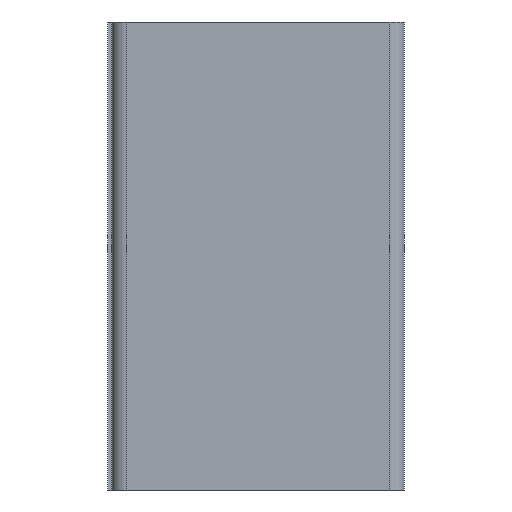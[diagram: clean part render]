
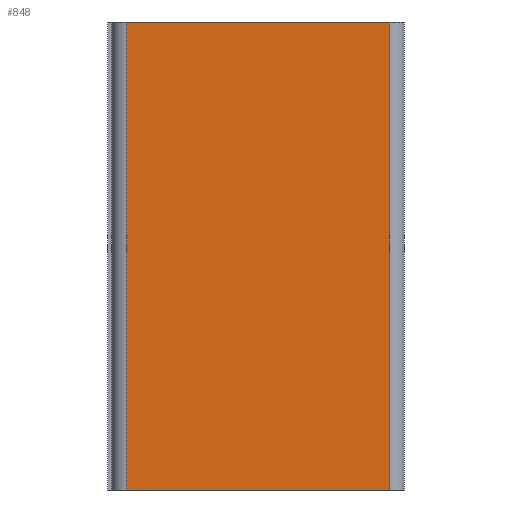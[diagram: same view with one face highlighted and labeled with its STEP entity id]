
A CAD part, left-side view. The second image highlights one B-rep face of the part: STEP entity #848.
In plain terms, the highlighted planar face has unit normal (-1, 0, 0).
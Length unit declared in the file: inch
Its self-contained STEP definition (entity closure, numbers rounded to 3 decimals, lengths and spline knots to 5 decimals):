
#38=FACE_OUTER_BOUND('',#88,.T.);
#88=EDGE_LOOP('',(#592,#593,#594,#595));
#142=LINE('',#1221,#254);
#144=LINE('',#1227,#256);
#152=LINE('',#1245,#264);
#153=LINE('',#1246,#265);
#254=VECTOR('',#989,0.032);
#256=VECTOR('',#995,0.018);
#264=VECTOR('',#1007,0.018);
#265=VECTOR('',#1008,0.032);
#363=VERTEX_POINT('',#1218);
#364=VERTEX_POINT('',#1220);
#366=VERTEX_POINT('',#1226);
#374=VERTEX_POINT('',#1244);
#447=EDGE_CURVE('',#363,#364,#142,.T.);
#450=EDGE_CURVE('',#364,#366,#144,.T.);
#459=EDGE_CURVE('',#374,#363,#152,.T.);
#460=EDGE_CURVE('',#366,#374,#153,.T.);
#592=ORIENTED_EDGE('',*,*,#447,.F.);
#593=ORIENTED_EDGE('',*,*,#459,.F.);
#594=ORIENTED_EDGE('',*,*,#460,.F.);
#595=ORIENTED_EDGE('',*,*,#450,.F.);
#801=PLANE('',#912);
#848=ADVANCED_FACE('',(#38),#801,.T.);
#912=AXIS2_PLACEMENT_3D('',#1243,#1005,#1006);
#989=DIRECTION('',(0.,0.,-1.));
#995=DIRECTION('',(0.,1.,0.));
#1005=DIRECTION('center_axis',(-1.,0.,0.));
#1006=DIRECTION('ref_axis',(0.,-1.,0.));
#1007=DIRECTION('',(0.,-1.,0.));
#1008=DIRECTION('',(0.,0.,1.));
#1218=CARTESIAN_POINT('',(-0.032,0.001,0.016));
#1220=CARTESIAN_POINT('',(-0.032,0.001,-0.016));
#1221=CARTESIAN_POINT('',(-0.032,0.001,0.));
#1226=CARTESIAN_POINT('',(-0.032,0.019,-0.016));
#1227=CARTESIAN_POINT('',(-0.032,0.02,-0.016));
#1243=CARTESIAN_POINT('Origin',(-0.032,0.02,0.));
#1244=CARTESIAN_POINT('',(-0.032,0.019,0.016));
#1245=CARTESIAN_POINT('',(-0.032,0.02,0.016));
#1246=CARTESIAN_POINT('',(-0.032,0.019,0.));
